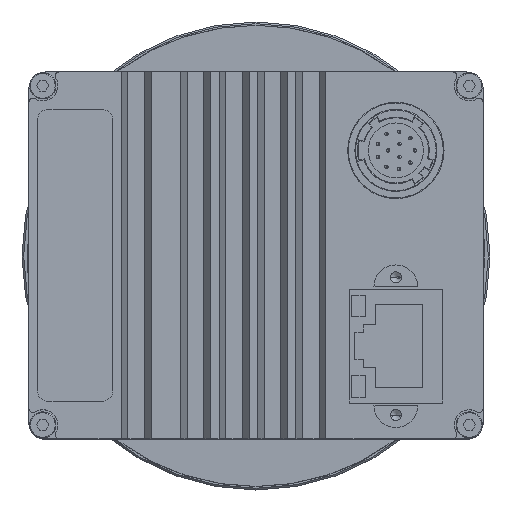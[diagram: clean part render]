
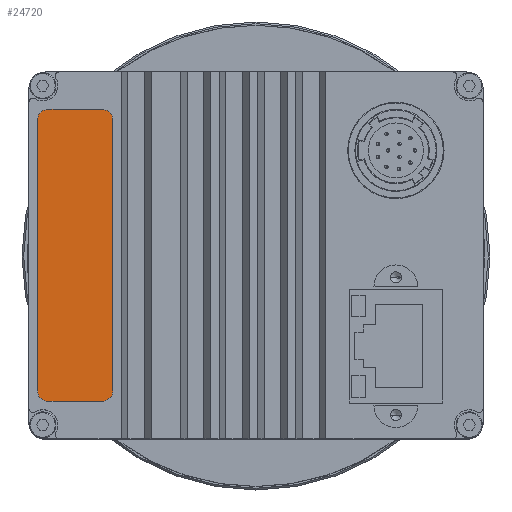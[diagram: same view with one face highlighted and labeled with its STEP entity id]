
A CAD part, top view. The second image highlights one B-rep face of the part: STEP entity #24720.
In plain terms, the highlighted planar face has unit normal (0, 0, 1).
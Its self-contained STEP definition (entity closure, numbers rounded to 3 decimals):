
#836 = EDGE_LOOP ( 'NONE', ( #19891, #22892, #7093, #10436, #19218, #16051, #23018, #14129 ) ) ;
#1425 = CARTESIAN_POINT ( 'NONE',  ( -22.352, -19.685, 12.192 ) ) ;
#1624 = VERTEX_POINT ( 'NONE', #19441 ) ;
#1936 = EDGE_CURVE ( 'NONE', #4822, #24558, #5586, .T. ) ;
#1953 = CIRCLE ( 'NONE', #23987, 1.524 ) ;
#2309 = EDGE_CURVE ( 'NONE', #25169, #17664, #21807, .T. ) ;
#2898 = CARTESIAN_POINT ( 'NONE',  ( -22.352, -21.209, 12.192 ) ) ;
#3854 = VECTOR ( 'NONE', #17800, 1000. ) ;
#3858 = LINE ( 'NONE', #2898, #15356 ) ;
#4822 = VERTEX_POINT ( 'NONE', #12185 ) ;
#5200 = EDGE_CURVE ( 'NONE', #27843, #1624, #3858, .T. ) ;
#5453 = CARTESIAN_POINT ( 'NONE',  ( -20.828, 19.685, 12.192 ) ) ;
#5586 = LINE ( 'NONE', #22329, #13368 ) ;
#6272 = VECTOR ( 'NONE', #7644, 1000. ) ;
#6718 = CARTESIAN_POINT ( 'NONE',  ( -20.828, -19.685, 12.192 ) ) ;
#6820 = AXIS2_PLACEMENT_3D ( 'NONE', #24484, #22310, #17984 ) ;
#7093 = ORIENTED_EDGE ( 'NONE', *, *, #20181, .T. ) ;
#7644 = DIRECTION ( 'NONE',  ( 0., -1., 0. ) ) ;
#7750 = CARTESIAN_POINT ( 'NONE',  ( -31.75, -19.685, 12.192 ) ) ;
#8427 = CARTESIAN_POINT ( 'NONE',  ( -30.226, -21.209, 12.192 ) ) ;
#8477 = DIRECTION ( 'NONE',  ( 0., 0., 1. ) ) ;
#10436 = ORIENTED_EDGE ( 'NONE', *, *, #20014, .T. ) ;
#10497 = CARTESIAN_POINT ( 'NONE',  ( -30.226, 19.685, 12.192 ) ) ;
#11049 = CIRCLE ( 'NONE', #14021, 1.524 ) ;
#11946 = CARTESIAN_POINT ( 'NONE',  ( -30.226, 21.209, 12.192 ) ) ;
#11994 = LINE ( 'NONE', #20434, #6272 ) ;
#12185 = CARTESIAN_POINT ( 'NONE',  ( -22.352, 21.209, 12.192 ) ) ;
#12572 = DIRECTION ( 'NONE',  ( 0., 0., 1. ) ) ;
#13368 = VECTOR ( 'NONE', #16070, 1000. ) ;
#13726 = CIRCLE ( 'NONE', #6820, 1.524 ) ;
#14021 = AXIS2_PLACEMENT_3D ( 'NONE', #10497, #27626, #17155 ) ;
#14129 = ORIENTED_EDGE ( 'NONE', *, *, #2309, .T. ) ;
#14633 = FACE_OUTER_BOUND ( 'NONE', #836, .T. ) ;
#15001 = EDGE_CURVE ( 'NONE', #16179, #27843, #1953, .T. ) ;
#15356 = VECTOR ( 'NONE', #20039, 1000. ) ;
#15605 = CARTESIAN_POINT ( 'NONE',  ( -20.828, -19.685, 12.192 ) ) ;
#16051 = ORIENTED_EDGE ( 'NONE', *, *, #5200, .T. ) ;
#16070 = DIRECTION ( 'NONE',  ( -1., 0., 0. ) ) ;
#16179 = VERTEX_POINT ( 'NONE', #7750 ) ;
#16520 = DIRECTION ( 'NONE',  ( -1., 0., 0. ) ) ;
#17155 = DIRECTION ( 'NONE',  ( -1., 0., 0. ) ) ;
#17664 = VERTEX_POINT ( 'NONE', #5453 ) ;
#17800 = DIRECTION ( 'NONE',  ( 0., 1., 0. ) ) ;
#17984 = DIRECTION ( 'NONE',  ( -1., 0., 0. ) ) ;
#19218 = ORIENTED_EDGE ( 'NONE', *, *, #15001, .T. ) ;
#19441 = CARTESIAN_POINT ( 'NONE',  ( -22.352, -21.209, 12.192 ) ) ;
#19891 = ORIENTED_EDGE ( 'NONE', *, *, #22292, .T. ) ;
#20014 = EDGE_CURVE ( 'NONE', #26151, #16179, #11994, .T. ) ;
#20039 = DIRECTION ( 'NONE',  ( 1., 0., 0. ) ) ;
#20142 = AXIS2_PLACEMENT_3D ( 'NONE', #25727, #8477, #21793 ) ;
#20181 = EDGE_CURVE ( 'NONE', #24558, #26151, #11049, .T. ) ;
#20434 = CARTESIAN_POINT ( 'NONE',  ( -31.75, -19.685, 12.192 ) ) ;
#20731 = DIRECTION ( 'NONE',  ( 0., 0., 1. ) ) ;
#21013 = EDGE_CURVE ( 'NONE', #1624, #25169, #24995, .T. ) ;
#21553 = DIRECTION ( 'NONE',  ( 1., 0., 0. ) ) ;
#21793 = DIRECTION ( 'NONE',  ( -1., 0., 0. ) ) ;
#21807 = LINE ( 'NONE', #15605, #3854 ) ;
#21983 = AXIS2_PLACEMENT_3D ( 'NONE', #1425, #20731, #16520 ) ;
#22292 = EDGE_CURVE ( 'NONE', #17664, #4822, #13726, .T. ) ;
#22310 = DIRECTION ( 'NONE',  ( 0., 0., 1. ) ) ;
#22329 = CARTESIAN_POINT ( 'NONE',  ( -22.352, 21.209, 12.192 ) ) ;
#22892 = ORIENTED_EDGE ( 'NONE', *, *, #1936, .T. ) ;
#23018 = ORIENTED_EDGE ( 'NONE', *, *, #21013, .T. ) ;
#23456 = CARTESIAN_POINT ( 'NONE',  ( -31.75, 19.685, 12.192 ) ) ;
#23847 = PLANE ( 'NONE',  #20142 ) ;
#23987 = AXIS2_PLACEMENT_3D ( 'NONE', #25873, #12572, #21553 ) ;
#24484 = CARTESIAN_POINT ( 'NONE',  ( -22.352, 19.685, 12.192 ) ) ;
#24558 = VERTEX_POINT ( 'NONE', #11946 ) ;
#24720 = ADVANCED_FACE ( 'NONE', ( #14633 ), #23847, .T. ) ;
#24995 = CIRCLE ( 'NONE', #21983, 1.524 ) ;
#25169 = VERTEX_POINT ( 'NONE', #6718 ) ;
#25727 = CARTESIAN_POINT ( 'NONE',  ( -22.352, 19.685, 12.192 ) ) ;
#25873 = CARTESIAN_POINT ( 'NONE',  ( -30.226, -19.685, 12.192 ) ) ;
#26151 = VERTEX_POINT ( 'NONE', #23456 ) ;
#27626 = DIRECTION ( 'NONE',  ( 0., 0., 1. ) ) ;
#27843 = VERTEX_POINT ( 'NONE', #8427 ) ;
